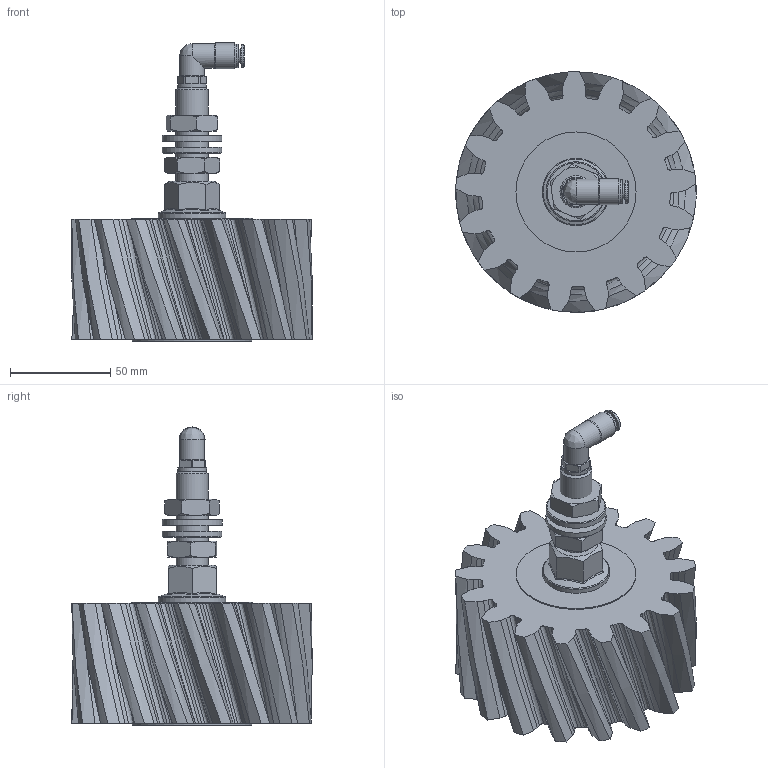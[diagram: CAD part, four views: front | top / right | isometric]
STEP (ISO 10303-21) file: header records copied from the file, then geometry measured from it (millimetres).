
FILE_DESCRIPTION (( 'STEP AP214' ), '1' );
FILE_NAME ('012_13_06_60_17ALZ.STEP', '2026-04-14T13:07:27', ( '' ), ( '' ), 'SwSTEP 2.0', 'SolidWorks 2022', '' );
FILE_SCHEMA (( 'AUTOMOTIVE_DESIGN' ));
Length unit declared in the file: millimetre
Products named in the file (12): Mutter_M16; Scheibe_M16; RIVOLUZIONE_0_2; 012_06_02_Scheibe-groß.SLDASM; 012_13_06_60_17ALZ; RH202242; OR 7.2X1.9_1; Senkkopfschraube_M6; DR6-C_HDX_25.07.16_1; Achse_M16_Schmierzahnrad; Modul_6_S_L; H202242_HDS022_6_M10X1_08.05.17(1)
Assembly tree (13 placements, depth 3):
  012_13_06_60_17ALZ
    Achse_M16_Schmierzahnrad
    012_06_02_Scheibe-groß.SLDASM
    Senkkopfschraube_M6
    Mutter_M16  x2
    Scheibe_M16  x2
    H202242_HDS022_6_M10X1_08.05.17(1)
      OR 7.2X1.9_1
      RH202242
      DR6-C_HDX_25.07.16_1
      RIVOLUZIONE_0_2
    Modul_6_S_L
Bounding box: 120.14 x 120.17 x 149 mm (x, y, z)
Volume: 585503 mm3; surface area: 86235.5 mm2
Topology: 12 solids, 12 shells, 709 faces, 1909 edges, 1262 vertices
Faces by surface type: plane 328, bspline 261, cone 62, cylinder 55, torus 3
Full cylindrical faces by diameter (mm): 4 x2, 5 x1, 6 x1, 6.2 x1, 6.3 x1, 7.2 x1, 8.5 x1, 8.92 x2, 9 x2, 9.9 x1, 10 x2, 10.1 x2, 10.3 x1, 11.5 x1, 11.7 x1, 12.5 x2, 13 x1, 14 x2, 14.5 x1, 16 x1, 17 x2, 30 x2, 33.6 x1, 60 x2
Entity records: 58802 total; most frequent: CARTESIAN_POINT 42556, ORIENTED_EDGE 3458, DIRECTION 2264, EDGE_CURVE 1729, VERTEX_POINT 1179, VECTOR 1072, LINE 1072, EDGE_LOOP 802
